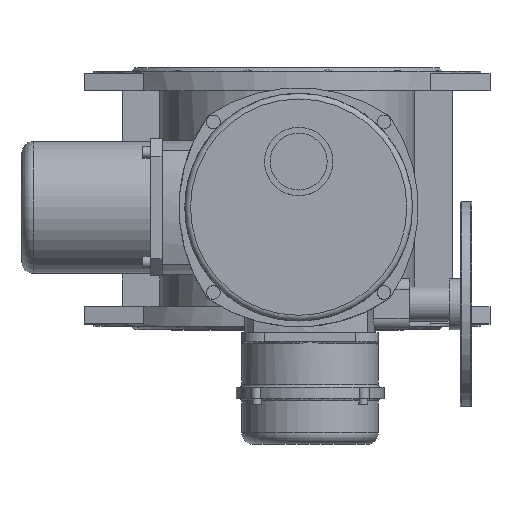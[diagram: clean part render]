
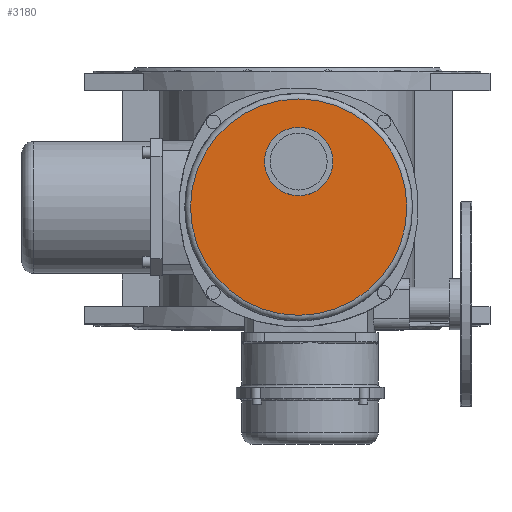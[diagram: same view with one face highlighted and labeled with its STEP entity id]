
A CAD part, top view. The second image highlights one B-rep face of the part: STEP entity #3180.
In plain terms, the highlighted planar face has unit normal (0, 0, 1).
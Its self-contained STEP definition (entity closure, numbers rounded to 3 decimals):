
#3180=ADVANCED_FACE('',(#6889,#6891),#6893,.T.);
#6889=FACE_BOUND('',#6890,.T.);
#6890=EDGE_LOOP('',(#8919));
#6891=FACE_BOUND('',#6892,.T.);
#6892=EDGE_LOOP('',(#8920));
#6893=PLANE('',#6894);
#6894=AXIS2_PLACEMENT_3D('',#6895,#6896,#6897);
#6895=CARTESIAN_POINT('',(10.,-8.,427.));
#6896=DIRECTION('',(0.,0.,1.));
#6897=DIRECTION('',(1.,0.,0.));
#8919=ORIENTED_EDGE('',*,*,#9892,.T.);
#8920=ORIENTED_EDGE('',*,*,#9955,.F.);
#9892=EDGE_CURVE('',#11407,#11407,#11408,.T.);
#9955=EDGE_CURVE('',#11509,#11509,#11510,.T.);
#11407=VERTEX_POINT('',#18566);
#11408=CIRCLE('',#18567,95.);
#11509=VERTEX_POINT('',#18827);
#11510=CIRCLE('',#18828,30.);
#18566=CARTESIAN_POINT('',(105.,-8.,427.));
#18567=AXIS2_PLACEMENT_3D('',#18568,#18569,#18570);
#18568=CARTESIAN_POINT('',(10.,-8.,427.));
#18569=DIRECTION('',(0.,0.,1.));
#18570=DIRECTION('',(1.,0.,0.));
#18827=CARTESIAN_POINT('',(40.,32.,427.));
#18828=AXIS2_PLACEMENT_3D('',#18829,#18830,#18831);
#18829=CARTESIAN_POINT('',(10.,32.,427.));
#18830=DIRECTION('',(0.,0.,1.));
#18831=DIRECTION('',(1.,0.,0.));
